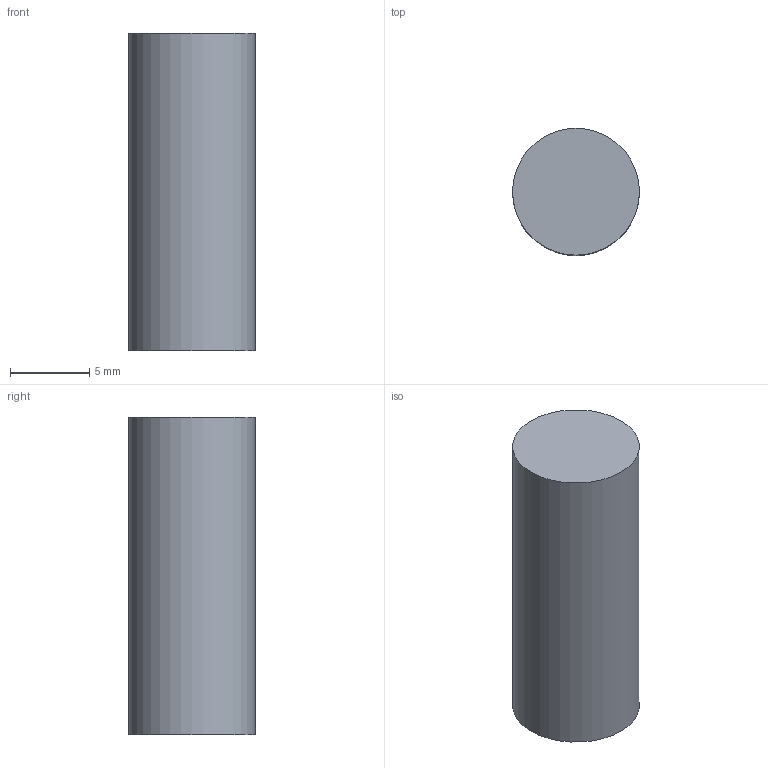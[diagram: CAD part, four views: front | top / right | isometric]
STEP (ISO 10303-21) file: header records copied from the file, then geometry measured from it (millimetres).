
FILE_DESCRIPTION(('Open CASCADE Model'),'2;1');
FILE_NAME('Open CASCADE Shape Model','2026-10-04T02:31:35',('Author'),( 'Open CASCADE'),'Open CASCADE STEP processor 8.0','Open CASCADE 8.0' ,'Unknown');
FILE_SCHEMA(('AUTOMOTIVE_DESIGN { 1 0 10303 214 1 1 1 1 }'));
Length unit declared in the file: millimetre
Products named in the file (1): Open CASCADE STEP translator 8.0 32
Bounding box: 8 x 8 x 20 mm (x, y, z)
Volume: 1005.3 mm3; surface area: 603.2 mm2
Topology: 1 solids, 1 shells, 3 faces, 3 edges, 2 vertices
Faces by surface type: plane 2, cylinder 1
Full cylindrical faces by diameter (mm): 8 x1
Entity records: 108 total; most frequent: DIRECTION 19, CARTESIAN_POINT 15, AXIS2_PLACEMENT_3D 6, ORIENTED_EDGE 6, PCURVE 6, DEFINITIONAL_REPRESENTATION 6, LINE 5, VECTOR 5
